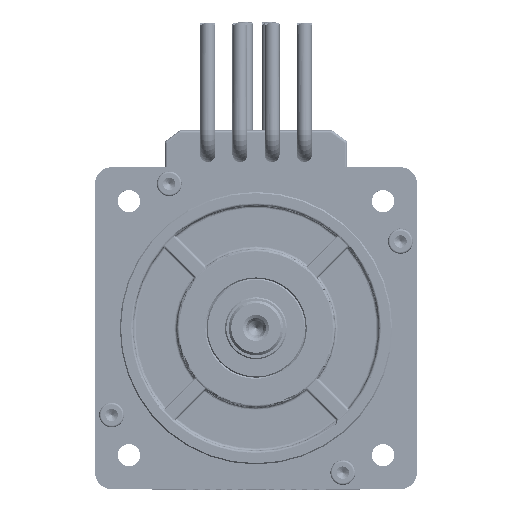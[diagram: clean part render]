
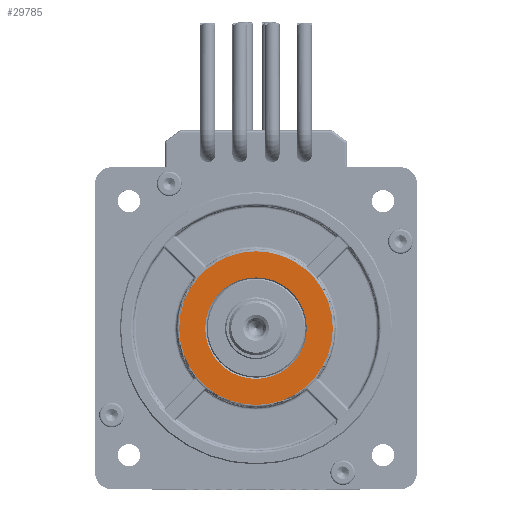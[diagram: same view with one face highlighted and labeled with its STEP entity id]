
A CAD part, top view. The second image highlights one B-rep face of the part: STEP entity #29785.
In plain terms, the highlighted planar face has unit normal (0, 0, 1).
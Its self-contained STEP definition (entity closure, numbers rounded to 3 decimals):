
#2343 = DIRECTION ( 'NONE',  ( 0., -1., 0. ) ) ;
#5339 = ORIENTED_EDGE ( 'NONE', *, *, #22725, .T. ) ;
#6176 = CARTESIAN_POINT ( 'NONE',  ( 0., 31., 82. ) ) ;
#6788 = DIRECTION ( 'NONE',  ( 0., -1., 0. ) ) ;
#7366 = CIRCLE ( 'NONE', #61861, 31. ) ;
#9473 = EDGE_CURVE ( 'NONE', #66566, #101782, #70119, .T. ) ;
#11987 = EDGE_LOOP ( 'NONE', ( #57424, #5339 ) ) ;
#12720 = DIRECTION ( 'NONE',  ( 0., -1., 0. ) ) ;
#17509 = DIRECTION ( 'NONE',  ( 0., 0., 1. ) ) ;
#18618 = PLANE ( 'NONE',  #55928 ) ;
#22417 = DIRECTION ( 'NONE',  ( 0., 0., -1. ) ) ;
#22725 = EDGE_CURVE ( 'NONE', #101782, #66566, #7366, .T. ) ;
#29785 = ADVANCED_FACE ( 'NONE', ( #74860, #93848 ), #18618, .F. ) ;
#32943 = DIRECTION ( 'NONE',  ( 0., 0., -1. ) ) ;
#40238 = AXIS2_PLACEMENT_3D ( 'NONE', #61417, #122263, #2343 ) ;
#46438 = CIRCLE ( 'NONE', #79287, 20.5 ) ;
#48111 = ORIENTED_EDGE ( 'NONE', *, *, #113498, .T. ) ;
#55928 = AXIS2_PLACEMENT_3D ( 'NONE', #107690, #67551, #6788 ) ;
#57424 = ORIENTED_EDGE ( 'NONE', *, *, #9473, .T. ) ;
#59281 = CARTESIAN_POINT ( 'NONE',  ( 0., 0., 82. ) ) ;
#61417 = CARTESIAN_POINT ( 'NONE',  ( 0., 0., 82. ) ) ;
#61861 = AXIS2_PLACEMENT_3D ( 'NONE', #59281, #17509, #69392 ) ;
#65202 = CARTESIAN_POINT ( 'NONE',  ( 0., 0., 82. ) ) ;
#66566 = VERTEX_POINT ( 'NONE', #110444 ) ;
#67551 = DIRECTION ( 'NONE',  ( 0., 0., -1. ) ) ;
#68482 = CARTESIAN_POINT ( 'NONE',  ( 0., 20.5, 82. ) ) ;
#69392 = DIRECTION ( 'NONE',  ( 0., -1., 0. ) ) ;
#70119 = CIRCLE ( 'NONE', #40238, 31. ) ;
#71445 = VERTEX_POINT ( 'NONE', #109942 ) ;
#72859 = EDGE_LOOP ( 'NONE', ( #48111, #99698 ) ) ;
#74860 = FACE_OUTER_BOUND ( 'NONE', #11987, .T. ) ;
#79287 = AXIS2_PLACEMENT_3D ( 'NONE', #84513, #32943, #12720 ) ;
#81037 = CIRCLE ( 'NONE', #125086, 20.5 ) ;
#84513 = CARTESIAN_POINT ( 'NONE',  ( 0., 0., 82. ) ) ;
#92957 = DIRECTION ( 'NONE',  ( 0., -1., 0. ) ) ;
#93198 = EDGE_CURVE ( 'NONE', #71445, #107255, #46438, .T. ) ;
#93848 = FACE_BOUND ( 'NONE', #72859, .T. ) ;
#99698 = ORIENTED_EDGE ( 'NONE', *, *, #93198, .T. ) ;
#101782 = VERTEX_POINT ( 'NONE', #6176 ) ;
#107255 = VERTEX_POINT ( 'NONE', #68482 ) ;
#107690 = CARTESIAN_POINT ( 'NONE',  ( 58.113, -58.113, 82. ) ) ;
#109942 = CARTESIAN_POINT ( 'NONE',  ( 0., -20.5, 82. ) ) ;
#110444 = CARTESIAN_POINT ( 'NONE',  ( 0., -31., 82. ) ) ;
#113498 = EDGE_CURVE ( 'NONE', #107255, #71445, #81037, .T. ) ;
#122263 = DIRECTION ( 'NONE',  ( 0., 0., 1. ) ) ;
#125086 = AXIS2_PLACEMENT_3D ( 'NONE', #65202, #22417, #92957 ) ;
